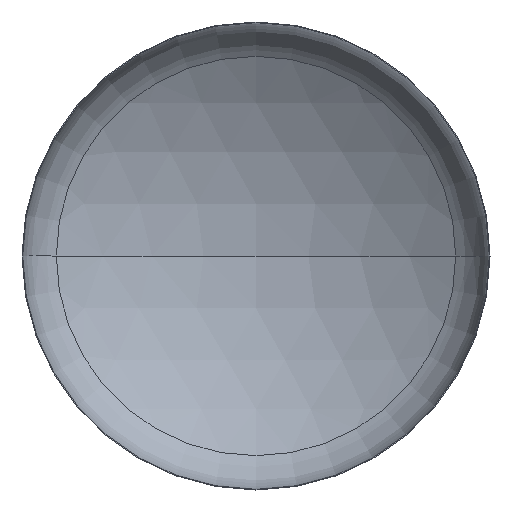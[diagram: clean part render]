
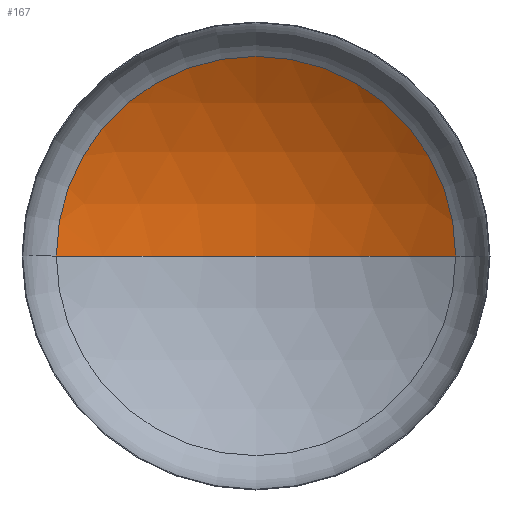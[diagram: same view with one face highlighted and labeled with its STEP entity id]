
A CAD part, front view. The second image highlights one B-rep face of the part: STEP entity #167.
In plain terms, the highlighted spherical face has radius 2880 mm.
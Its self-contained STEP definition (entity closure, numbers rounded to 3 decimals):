
#17 = EDGE_LOOP ( 'NONE', ( #34, #30, #139 ) ) ;
#21 = DIRECTION ( 'NONE',  ( 1., 0., 0. ) ) ;
#30 = ORIENTED_EDGE ( 'NONE', *, *, #123, .T. ) ;
#34 = ORIENTED_EDGE ( 'NONE', *, *, #130, .F. ) ;
#35 = AXIS2_PLACEMENT_3D ( 'NONE', #260, #208, #279 ) ;
#39 = AXIS2_PLACEMENT_3D ( 'NONE', #267, #44, #194 ) ;
#42 = VERTEX_POINT ( 'NONE', #357 ) ;
#43 = VERTEX_POINT ( 'NONE', #292 ) ;
#44 = DIRECTION ( 'NONE',  ( 0., 0., -1. ) ) ;
#46 = AXIS2_PLACEMENT_3D ( 'NONE', #224, #219, #221 ) ;
#49 = AXIS2_PLACEMENT_3D ( 'NONE', #238, #190, #21 ) ;
#66 = VERTEX_POINT ( 'NONE', #257 ) ;
#121 = EDGE_CURVE ( 'NONE', #43, #66, #408, .T. ) ;
#123 = EDGE_CURVE ( 'NONE', #42, #43, #156, .T. ) ;
#130 = EDGE_CURVE ( 'NONE', #42, #66, #354, .T. ) ;
#139 = ORIENTED_EDGE ( 'NONE', *, *, #121, .T. ) ;
#156 = CIRCLE ( 'NONE', #39, 2880. ) ;
#167 = ADVANCED_FACE ( 'NONE', ( #281 ), #226, .F. ) ;
#190 = DIRECTION ( 'NONE',  ( 0., -1., 0. ) ) ;
#194 = DIRECTION ( 'NONE',  ( -1., 0., 0. ) ) ;
#208 = DIRECTION ( 'NONE',  ( 0., 0., -1. ) ) ;
#219 = DIRECTION ( 'NONE',  ( 0., 0., 1. ) ) ;
#221 = DIRECTION ( 'NONE',  ( 1., 0., 0. ) ) ;
#224 = CARTESIAN_POINT ( 'NONE',  ( 0., -1946.73, 0. ) ) ;
#226 = SPHERICAL_SURFACE ( 'NONE', #35, 2880. ) ;
#238 = CARTESIAN_POINT ( 'NONE',  ( 0., 489.477, 0. ) ) ;
#257 = CARTESIAN_POINT ( 'NONE',  ( -1536., 489.477, 0. ) ) ;
#260 = CARTESIAN_POINT ( 'NONE',  ( 0., -1946.73, 0. ) ) ;
#267 = CARTESIAN_POINT ( 'NONE',  ( 0., -1946.73, 0. ) ) ;
#279 = DIRECTION ( 'NONE',  ( -1., 0., 0. ) ) ;
#281 = FACE_OUTER_BOUND ( 'NONE', #17, .T. ) ;
#292 = CARTESIAN_POINT ( 'NONE',  ( 1536., 489.477, 0. ) ) ;
#354 = CIRCLE ( 'NONE', #46, 2880. ) ;
#357 = CARTESIAN_POINT ( 'NONE',  ( 0., 933.27, 0. ) ) ;
#408 = CIRCLE ( 'NONE', #49, 1536. ) ;
